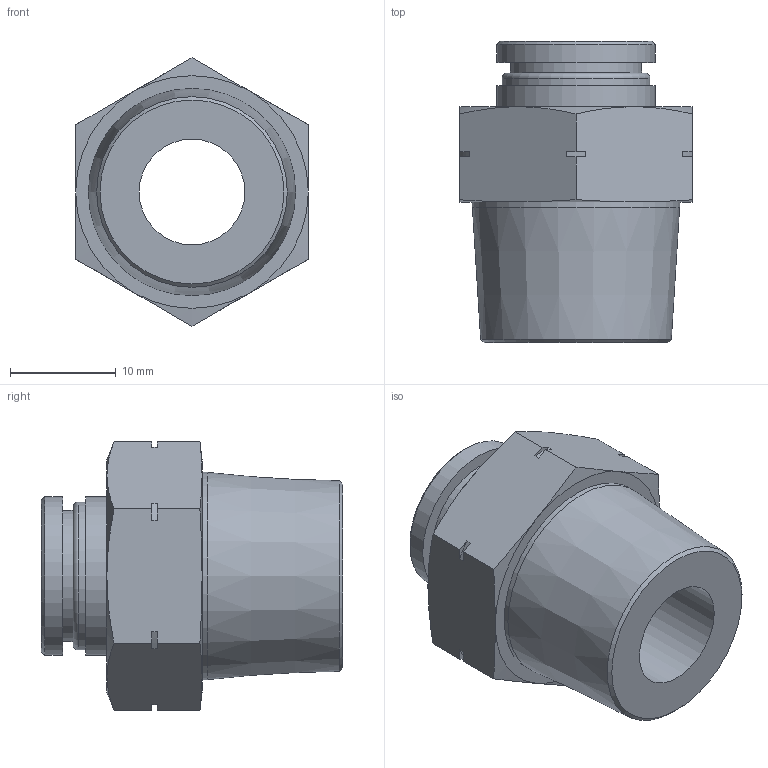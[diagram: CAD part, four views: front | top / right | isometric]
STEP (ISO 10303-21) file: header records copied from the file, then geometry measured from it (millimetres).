
FILE_DESCRIPTION(/* description */ (''),/* implementation_level */ '2;1');
FILE_NAME(/* name */ 'LXH11 0012 N4.stp',/* time_stamp */ '2026-04-19T15:09:26+02:00',/* author */ ('freju'),/* organization */ (''),/* preprocessor_version */ 'ST-DEVELOPER v20.1',/* originating_system */ 'Autodesk Inventor 2026',/* authorisation */ '');
FILE_SCHEMA (('AUTOMOTIVE_DESIGN { 1 0 10303 214 3 1 1 }'));
Length unit declared in the file: millimetre
Products named in the file (1): LXH11 0012 N4
Bounding box: 22 x 28.5 x 25.4 mm (x, y, z)
Volume: 5854.1 mm3; surface area: 3422.2 mm2
Topology: 1 solids, 1 shells, 55 faces, 128 edges, 81 vertices
Faces by surface type: plane 26, cone 15, cylinder 13, torus 1
Full cylindrical faces by diameter (mm): 10 x1, 12 x1, 12.4 x1, 14 x1, 15 x2, 19.602 x1
Entity records: 1587 total; most frequent: CARTESIAN_POINT 313, DIRECTION 262, ORIENTED_EDGE 256, EDGE_CURVE 128, AXIS2_PLACEMENT_3D 102, VERTEX_POINT 81, EDGE_LOOP 63, LINE 58
